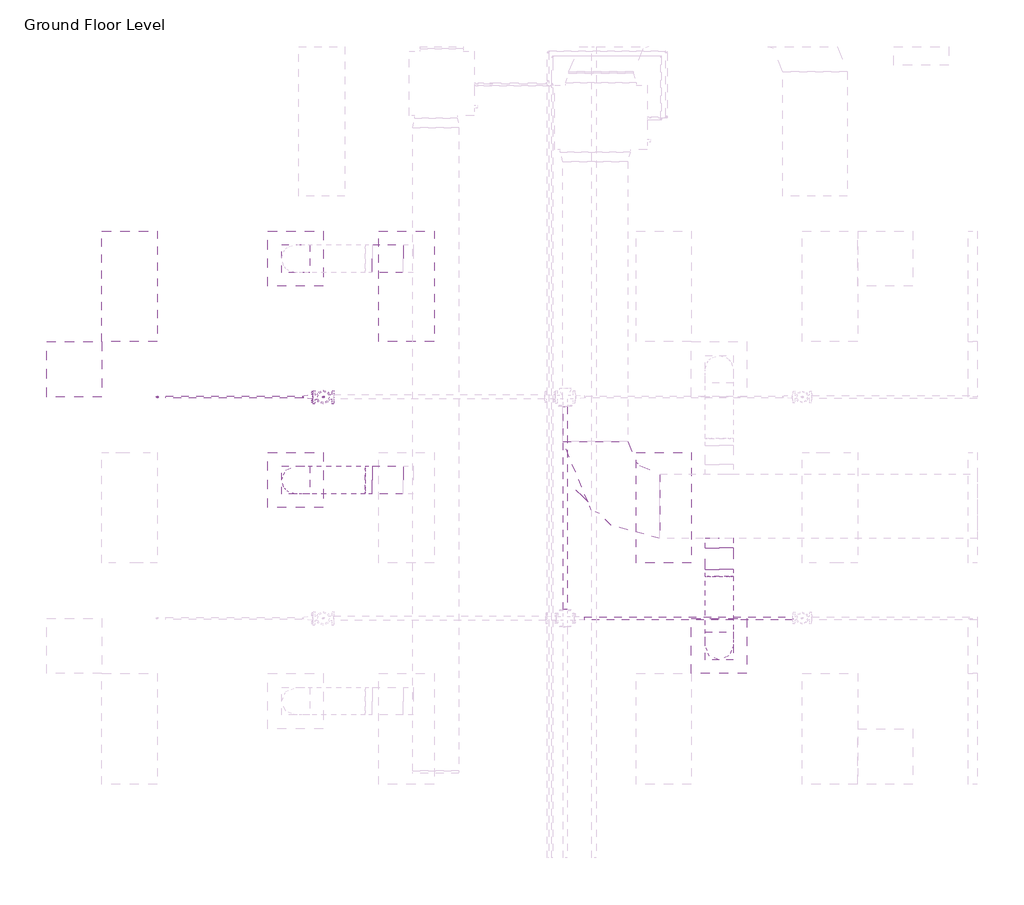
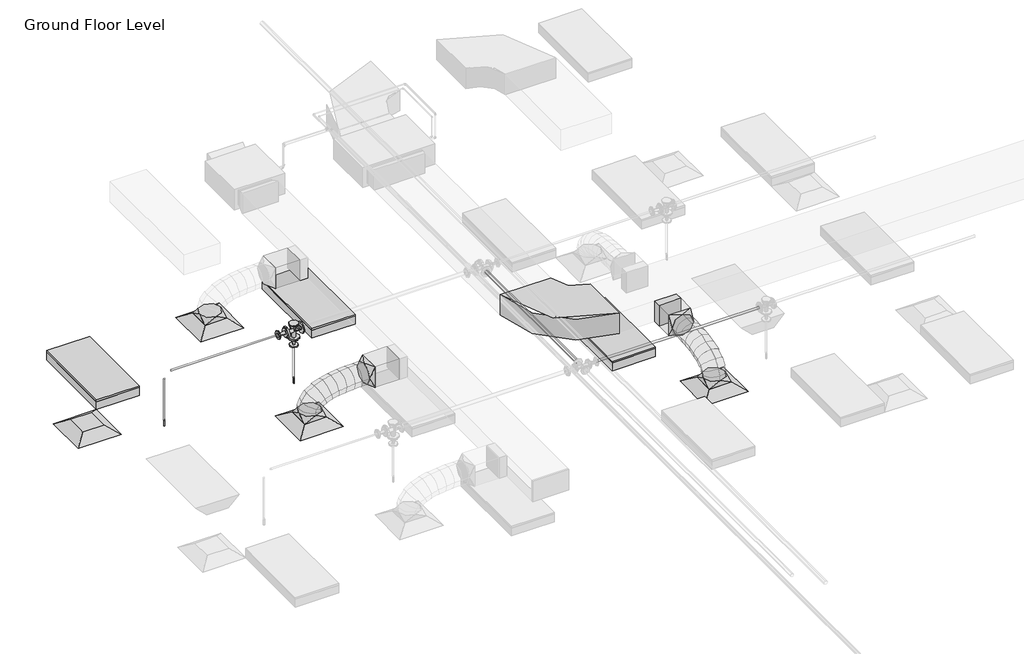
# One storey, part 29 of 66: 7 duct fittings, 5 duct segments, 5 pipe segments, 4 air terminals, 3 light fixtures, 3 pipe fittings, 2 fire suppression terminals.
"""IFC4 building model written with IfcOpenShell, lengths in millimetres."""

from ifc_helpers import new_model, si_unit, point, frame, frame_2d, origin, place, context, project, spatial, polyline, circle_curve, ellipse_curve, trimmed, segment, composite_curve, outline, extrude, transform, mapped, element, save
from ifc_brep_helpers import plane_surface, cylinder_surface, advanced_brep
from components import m_return_diffuser_600_x_600_face_300_x_300_connection_ff221211, m_rectangular_elbow_radius_1_w_8a62b27e, m_rectangular_takeoff_standard_2be5eba1, m_rectangular_to_round_transition_angle_45_degree_641efff0, m_sprinkler_dry_pendent_hosted_15_mm_dry_pendent_9bda8e11, m_troffer_light_parabolic_rectangular1_0600x1200mm_4_lamp_86473d4a, m_reducer_flanged_cs_class_150_standard_83138b42, m_reducer_flanged_cs_class_150_standard_dc68ad9d, m_tee_round_base_flanged_cs_class_150_standard_ab36f383

model = new_model("IFC4")

# Units and contexts
model_context = context("Model", 3, world=origin())
ifc_project = project(units=[si_unit("LENGTHUNIT", "METRE", prefix="MILLI")], contexts=[model_context])

# Site, building, storey
site = spatial("IfcSite", under=ifc_project)
building = spatial("IfcBuilding", under=site)
storey = spatial("IfcBuildingStorey", under=building, Name="Ground Floor Level", Elevation=900.0)

# Air terminals
placement = place(None, origin())
m_return_diffuser_600_x_600_face_300_x_300_connection_shape = m_return_diffuser_600_x_600_face_300_x_300_connection_ff221211(model_context)
element("IfcAirTerminal", 1, ObjectType="M_Return Diffuser : 600 x 600 Face 300 x 300 Connection", at=placement, inside=storey, context=model_context, shape_type="MappedRepresentation", body=[
    mapped(m_return_diffuser_600_x_600_face_300_x_300_connection_shape, transform((362.7672395, -10664.7846466, 3650.0), x_axis=(1.0, 0.0, 0.0), y_axis=(0.0, 1.0, 0.0), z_axis=(0.0, 0.0, 1.0))),
])
element("IfcAirTerminal", 2, ObjectType="M_Supply Diffuser : 600 x 600 Face 300 x 300 Connection", at=placement, inside=storey, context=model_context, shape_type="MappedRepresentation", body=[
    mapped(m_return_diffuser_600_x_600_face_300_x_300_connection_shape, transform((2762.7672395, -9464.7846466, 3650.0), x_axis=(1.0, 0.0, 0.0), y_axis=(0.0, 1.0, 0.0), z_axis=(0.0, 0.0, 1.0))),
])
element("IfcAirTerminal", 3, ObjectType="M_Supply Diffuser : 600 x 600 Face 300 x 300 Connection", at=placement, inside=storey, context=model_context, shape_type="MappedRepresentation", body=[
    mapped(m_return_diffuser_600_x_600_face_300_x_300_connection_shape, transform((2762.7672395, -11864.7846466, 3650.0), x_axis=(1.0, 0.0, 0.0), y_axis=(0.0, 1.0, 0.0), z_axis=(0.0, 0.0, 1.0))),
])
element("IfcAirTerminal", 4, ObjectType="M_Supply Diffuser : 600 x 600 Face 300 x 300 Connection", at=placement, inside=storey, context=model_context, shape_type="MappedRepresentation", body=[
    mapped(m_return_diffuser_600_x_600_face_300_x_300_connection_shape, transform((7352.7672395, -13664.7846466, 3650.0), x_axis=(1.0, 0.0, 0.0), y_axis=(0.0, 1.0, 0.0), z_axis=(0.0, 0.0, 1.0))),
])

# Duct fittings
m_rectangular_elbow_radius_1_w_shape = m_rectangular_elbow_radius_1_w_8a62b27e(model_context)
element("IfcDuctFitting", 5, ObjectType="M_Rectangular Elbow - Radius : 1 W", at=placement, inside=storey, context=model_context, shape_type="MappedRepresentation", body=[
    mapped(m_rectangular_elbow_radius_1_w_shape, transform((6009.9139492, -12149.3358641, 4099.9875), x_axis=(0.0, -0.9999999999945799, -3.2924882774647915e-06), y_axis=(1.0000000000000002, 0.0, 0.0), z_axis=(0.0, -3.2924882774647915e-06, 0.9999999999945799))),
])
m_rectangular_takeoff_standard_shape = m_rectangular_takeoff_standard_2be5eba1(model_context)
element("IfcDuctFitting", 6, ObjectType="M_Rectangular Takeoff : Standard", at=placement, inside=storey, context=model_context, shape_type="MappedRepresentation", body=[
    mapped(m_rectangular_takeoff_standard_shape, transform((7352.7672395, -12499.3358641, 4099.9875), x_axis=(0.0, -1.0, 0.0), y_axis=(-1.0, 0.0, 0.0), z_axis=(0.0, 0.0, -1.0))),
])
m_rectangular_to_round_transition_angle_45_degree_shape = m_rectangular_to_round_transition_angle_45_degree_641efff0(model_context)
element("IfcDuctFitting", 7, ObjectType="M_Rectangular to Round Transition - Angle : 45 Degree", at=placement, inside=storey, context=model_context, shape_type="MappedRepresentation", body=[
    mapped(m_rectangular_to_round_transition_angle_45_degree_shape, transform((2762.7672395, -9464.7846466, 3751.6), x_axis=(0.0, 0.0, 1.0), y_axis=(-1.0, 0.0, 0.0), z_axis=(0.0, -1.0, 0.0))),
])
element("IfcDuctFitting", 8, ObjectType="M_Rectangular to Round Transition - Angle : 45 Degree", at=placement, inside=storey, context=model_context, shape_type="MappedRepresentation", body=[
    mapped(m_rectangular_to_round_transition_angle_45_degree_shape, transform((2762.7672395, -11864.7846466, 3751.6), x_axis=(0.0, 0.0, 1.0), y_axis=(-1.0, 0.0, 0.0), z_axis=(0.0, -1.0, 0.0))),
])
element("IfcDuctFitting", 9, ObjectType="M_Rectangular to Round Transition - Angle : 45 Degree", at=placement, inside=storey, context=model_context, shape_type="MappedRepresentation", body=[
    mapped(m_rectangular_to_round_transition_angle_45_degree_shape, transform((3590.1100595, -11864.7846466, 4099.9931113), x_axis=(-1.0, 0.0, 0.0), y_axis=(0.0, -1.0, 0.0), z_axis=(0.0, 0.0, 1.0))),
])
element("IfcDuctFitting", 10, ObjectType="M_Rectangular to Round Transition - Angle : 45 Degree", at=placement, inside=storey, context=model_context, shape_type="MappedRepresentation", body=[
    mapped(m_rectangular_to_round_transition_angle_45_degree_shape, transform((7352.7672395, -13664.7846466, 3751.6), x_axis=(0.0, 0.0, 1.0), y_axis=(-1.0, 0.0, 0.0), z_axis=(0.0, -1.0, 0.0))),
])
element("IfcDuctFitting", 11, ObjectType="M_Rectangular to Round Transition - Angle : 45 Degree", at=placement, inside=storey, context=model_context, shape_type="MappedRepresentation", body=[
    mapped(m_rectangular_to_round_transition_angle_45_degree_shape, transform((7352.7672395, -12837.4362153, 4099.9875), x_axis=(0.0, -1.0, 0.0), y_axis=(1.0, 0.0, 0.0), z_axis=(0.0, 0.0, 1.0))),
])

# Duct segments
element("IfcDuctSegment", 12, ObjectType="Flex - Round", at=placement, inside=storey, context=model_context, shape_type="AdvancedBrep", body=[
    advanced_brep(
    [(2912.7672395, -11864.7846466, 3826.6), (2762.7672395, -12014.7846466, 3826.6), (2612.7672395, -11864.7846466, 3826.6), (2762.7672395, -11714.7846466, 3826.6), (2912.7672395, -11864.7846466, 3832.2944249), (2762.7672395, -12014.7846466, 3857.9380006), (2612.7672395, -11864.7846466, 3883.5815763), (2762.7672395, -11714.7846466, 3857.9380006), (2913.5209081, -11864.7846466, 3834.434264), (2779.783363, -12014.7846466, 3906.2506984), (2646.045818, -11864.7846466, 3978.0671329), (2779.783363, -11714.7846466, 3906.2506984), (2931.1724836, -11864.7846466, 3857.8005181), (2826.9677634, -12014.7846466, 3968.7109978), (2722.7630433, -11864.7846466, 4079.6214776), (2826.9677634, -11714.7846466, 3968.7109978), (2967.4566828, -11864.7846466, 3881.8142389), (2898.5244852, -12014.7846466, 4016.0688885), (2829.5922876, -11864.7846466, 4150.3235382), (2898.5244852, -11714.7846466, 4016.0688885), (3032.2163051, -11864.7846466, 3906.4896423), (2988.6575729, -12014.7846466, 4050.4123609), (2945.0988407, -11864.7846466, 4194.3350795), (2988.6575729, -11714.7846466, 4050.4123609), (3118.1300698, -11864.7846466, 3926.0385497), (3091.5710711, -12014.7846466, 4073.8294054), (3065.0120723, -11864.7846466, 4221.620261), (3091.5710711, -11714.7846466, 4073.8294054), (3216.6182532, -11864.7846466, 3939.1035838), (3201.4690243, -12014.7846466, 4088.4080122), (3186.3197953, -11864.7846466, 4237.7124407), (3201.4690243, -11714.7846466, 4088.4080122), (3320.0595033, -11864.7846466, 3946.3929932), (3312.555477, -12014.7846466, 4096.2361719), (3305.0514507, -11864.7846466, 4246.0793507), (3312.555477, -11714.7846466, 4096.2361719), (3421.725202, -11864.7846466, 3949.415593), (3419.0344739, -12014.7846466, 4099.4018748), (3416.3437458, -11864.7846466, 4249.3881567), (3419.0344739, -11714.7846466, 4099.4018748), (3516.0331222, -11864.7846466, 3949.9959514), (3515.1100595, -12014.7846466, 4099.9931113), (3514.1869969, -11864.7846466, 4249.9902711), (3515.1100595, -11714.7846466, 4099.9931113)],
    [
        (0, 1, circle_curve(frame((2762.7672395, -11864.7846466, 3826.6), z_axis=(0.0, 0.0, -1.0), x_axis=(1.0, 0.0, 0.0)), 150.0)),
        (1, 2, circle_curve(frame((2762.7672395, -11864.7846466, 3826.6), z_axis=(0.0, 0.0, -1.0), x_axis=(1.0, 0.0, 0.0)), 150.0)),
        (2, 3, circle_curve(frame((2762.7672395, -11864.7846466, 3826.6), z_axis=(0.0, 0.0, -1.0), x_axis=(1.0, 0.0, 0.0)), 150.0)),
        (3, 0, circle_curve(frame((2762.7672395, -11864.7846466, 3826.6), z_axis=(0.0, 0.0, -1.0), x_axis=(1.0, 0.0, 0.0)), 150.0)),
        (0, 4),
        (4, 5, ellipse_curve(frame((2762.7672395, -11864.7846466, 3857.9380006), z_axis=(-0.1685124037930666, 0.0, -0.985699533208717), x_axis=(0.985699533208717, 0.0, -0.16851240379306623)), 152.1761906, 150.0)),
        (5, 1),
        (5, 6, ellipse_curve(frame((2762.7672395, -11864.7846466, 3857.9380006), z_axis=(-0.1685124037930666, 0.0, -0.985699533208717), x_axis=(0.985699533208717, 0.0, -0.16851240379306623)), 152.1761906, 150.0)),
        (6, 2),
        (6, 7, ellipse_curve(frame((2762.7672395, -11864.7846466, 3857.9380006), z_axis=(-0.1685124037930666, 0.0, -0.985699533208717), x_axis=(0.985699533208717, 0.0, -0.16851240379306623)), 152.1761906, 150.0)),
        (7, 3),
        (7, 4, ellipse_curve(frame((2762.7672395, -11864.7846466, 3857.9380006), z_axis=(-0.1685124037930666, 0.0, -0.985699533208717), x_axis=(0.985699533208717, 0.0, -0.16851240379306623)), 152.1761906, 150.0)),
        (4, 8),
        (8, 9, ellipse_curve(frame((2779.783363, -11864.7846466, 3906.2506984), z_axis=(-0.47309810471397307, 0.0, -0.8810097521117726), x_axis=(0.8810097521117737, 0.0, -0.47309810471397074)), 151.8003005, 150.0)),
        (9, 5),
        (9, 10, ellipse_curve(frame((2779.783363, -11864.7846466, 3906.2506984), z_axis=(-0.47309810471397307, 0.0, -0.8810097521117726), x_axis=(0.8810097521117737, 0.0, -0.47309810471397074)), 151.8003005, 150.0)),
        (10, 6),
        (10, 11, ellipse_curve(frame((2779.783363, -11864.7846466, 3906.2506984), z_axis=(-0.47309810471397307, 0.0, -0.8810097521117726), x_axis=(0.8810097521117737, 0.0, -0.47309810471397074)), 151.8003005, 150.0)),
        (11, 7),
        (11, 8, ellipse_curve(frame((2779.783363, -11864.7846466, 3906.2506984), z_axis=(-0.47309810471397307, 0.0, -0.8810097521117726), x_axis=(0.8810097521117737, 0.0, -0.47309810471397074)), 151.8003005, 150.0)),
        (8, 12),
        (12, 13, ellipse_curve(frame((2826.9677634, -11864.7846466, 3968.7109978), z_axis=(-0.7287953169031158, 0.0, -0.684731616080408), x_axis=(0.6847316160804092, 0.0, -0.7287953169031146)), 152.1833047, 150.0)),
        (13, 9),
        (13, 14, ellipse_curve(frame((2826.9677634, -11864.7846466, 3968.7109978), z_axis=(-0.7287953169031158, 0.0, -0.684731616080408), x_axis=(0.6847316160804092, 0.0, -0.7287953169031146)), 152.1833047, 150.0)),
        (14, 10),
        (14, 15, ellipse_curve(frame((2826.9677634, -11864.7846466, 3968.7109978), z_axis=(-0.7287953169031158, 0.0, -0.684731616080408), x_axis=(0.6847316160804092, 0.0, -0.7287953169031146)), 152.1833047, 150.0)),
        (15, 11),
        (15, 12, ellipse_curve(frame((2826.9677634, -11864.7846466, 3968.7109978), z_axis=(-0.7287953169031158, 0.0, -0.684731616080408), x_axis=(0.6847316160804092, 0.0, -0.7287953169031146)), 152.1833047, 150.0)),
        (12, 16),
        (16, 17, ellipse_curve(frame((2898.5244852, -11864.7846466, 4016.0688885), z_axis=(-0.8895922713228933, 0.0, -0.45675550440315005), x_axis=(0.4567555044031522, 0.0, -0.8895922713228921)), 150.9170594, 150.0)),
        (17, 13),
        (17, 18, ellipse_curve(frame((2898.5244852, -11864.7846466, 4016.0688885), z_axis=(-0.8895922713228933, 0.0, -0.45675550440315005), x_axis=(0.4567555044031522, 0.0, -0.8895922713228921)), 150.9170594, 150.0)),
        (18, 14),
        (18, 19, ellipse_curve(frame((2898.5244852, -11864.7846466, 4016.0688885), z_axis=(-0.8895922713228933, 0.0, -0.45675550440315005), x_axis=(0.4567555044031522, 0.0, -0.8895922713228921)), 150.9170594, 150.0)),
        (19, 15),
        (19, 16, ellipse_curve(frame((2898.5244852, -11864.7846466, 4016.0688885), z_axis=(-0.8895922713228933, 0.0, -0.45675550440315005), x_axis=(0.4567555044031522, 0.0, -0.8895922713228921)), 150.9170594, 150.0)),
        (16, 20),
        (20, 21, ellipse_curve(frame((2988.6575729, -11864.7846466, 4050.4123609), z_axis=(-0.957124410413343, 0.0, -0.289677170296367), x_axis=(0.28967717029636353, 0.0, -0.9571244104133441)), 150.3699175, 150.0)),
        (21, 17),
        (21, 22, ellipse_curve(frame((2988.6575729, -11864.7846466, 4050.4123609), z_axis=(-0.957124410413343, 0.0, -0.289677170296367), x_axis=(0.28967717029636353, 0.0, -0.9571244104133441)), 150.3699175, 150.0)),
        (22, 18),
        (22, 23, ellipse_curve(frame((2988.6575729, -11864.7846466, 4050.4123609), z_axis=(-0.957124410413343, 0.0, -0.289677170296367), x_axis=(0.28967717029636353, 0.0, -0.9571244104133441)), 150.3699175, 150.0)),
        (23, 19),
        (23, 20, ellipse_curve(frame((2988.6575729, -11864.7846466, 4050.4123609), z_axis=(-0.957124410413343, 0.0, -0.289677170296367), x_axis=(0.28967717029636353, 0.0, -0.9571244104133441)), 150.3699175, 150.0)),
        (20, 24),
        (24, 25, ellipse_curve(frame((3091.5710711, -11864.7846466, 4073.8294054), z_axis=(-0.9842336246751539, 0.0, -0.1768733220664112), x_axis=(0.17687332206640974, 0.0, -0.9842336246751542)), 150.1583079, 150.0)),
        (25, 21),
        (25, 26, ellipse_curve(frame((3091.5710711, -11864.7846466, 4073.8294054), z_axis=(-0.9842336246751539, 0.0, -0.1768733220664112), x_axis=(0.17687332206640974, 0.0, -0.9842336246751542)), 150.1583079, 150.0)),
        (26, 22),
        (26, 27, ellipse_curve(frame((3091.5710711, -11864.7846466, 4073.8294054), z_axis=(-0.9842336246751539, 0.0, -0.1768733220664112), x_axis=(0.17687332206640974, 0.0, -0.9842336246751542)), 150.1583079, 150.0)),
        (27, 23),
        (27, 24, ellipse_curve(frame((3091.5710711, -11864.7846466, 4073.8294054), z_axis=(-0.9842336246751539, 0.0, -0.1768733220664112), x_axis=(0.17687332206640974, 0.0, -0.9842336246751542)), 150.1583079, 150.0)),
        (24, 28),
        (28, 29, ellipse_curve(frame((3201.4690243, -11864.7846466, 4088.4080122), z_axis=(-0.9948917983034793, 0.0, -0.10094706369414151), x_axis=(0.10094706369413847, 0.0, -0.9948917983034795)), 150.0710214, 150.0)),
        (29, 25),
        (29, 30, ellipse_curve(frame((3201.4690243, -11864.7846466, 4088.4080122), z_axis=(-0.9948917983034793, 0.0, -0.10094706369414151), x_axis=(0.10094706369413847, 0.0, -0.9948917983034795)), 150.0710214, 150.0)),
        (30, 26),
        (30, 31, ellipse_curve(frame((3201.4690243, -11864.7846466, 4088.4080122), z_axis=(-0.9948917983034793, 0.0, -0.10094706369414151), x_axis=(0.10094706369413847, 0.0, -0.9948917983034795)), 150.0710214, 150.0)),
        (31, 27),
        (31, 28, ellipse_curve(frame((3201.4690243, -11864.7846466, 4088.4080122), z_axis=(-0.9948917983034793, 0.0, -0.10094706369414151), x_axis=(0.10094706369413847, 0.0, -0.9948917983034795)), 150.0710214, 150.0)),
        (28, 32),
        (32, 33, ellipse_curve(frame((3312.555477, -11864.7846466, 4096.2361719), z_axis=(-0.99874839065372, 0.0, -0.050016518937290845), x_axis=(0.050016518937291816, 0.0, -0.99874839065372)), 150.0309589, 150.0)),
        (33, 29),
        (33, 34, ellipse_curve(frame((3312.555477, -11864.7846466, 4096.2361719), z_axis=(-0.99874839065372, 0.0, -0.050016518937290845), x_axis=(0.050016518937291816, 0.0, -0.99874839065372)), 150.0309589, 150.0)),
        (34, 30),
        (34, 35, ellipse_curve(frame((3312.555477, -11864.7846466, 4096.2361719), z_axis=(-0.99874839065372, 0.0, -0.050016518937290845), x_axis=(0.050016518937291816, 0.0, -0.99874839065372)), 150.0309589, 150.0)),
        (35, 31),
        (35, 32, ellipse_curve(frame((3312.555477, -11864.7846466, 4096.2361719), z_axis=(-0.99874839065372, 0.0, -0.050016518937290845), x_axis=(0.050016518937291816, 0.0, -0.99874839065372)), 150.0309589, 150.0)),
        (32, 36),
        (36, 37, ellipse_curve(frame((3419.0344739, -11864.7846466, 4099.4018748), z_axis=(-0.999839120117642, 0.0, -0.017936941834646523), x_axis=(0.017936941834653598, 1.819106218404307e-12, -0.9998391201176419)), 150.0104155, 150.0)),
        (37, 33),
        (37, 38, ellipse_curve(frame((3419.0344739, -11864.7846466, 4099.4018748), z_axis=(-0.999839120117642, 0.0, -0.017936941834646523), x_axis=(0.017936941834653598, 1.819106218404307e-12, -0.9998391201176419)), 150.0104155, 150.0)),
        (38, 34),
        (38, 39, ellipse_curve(frame((3419.0344739, -11864.7846466, 4099.4018748), z_axis=(-0.999839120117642, 0.0, -0.017936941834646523), x_axis=(0.017936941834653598, 1.819106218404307e-12, -0.9998391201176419)), 150.0104155, 150.0)),
        (39, 35),
        (39, 36, ellipse_curve(frame((3419.0344739, -11864.7846466, 4099.4018748), z_axis=(-0.999839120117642, 0.0, -0.017936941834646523), x_axis=(0.017936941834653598, 1.819106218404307e-12, -0.9998391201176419)), 150.0104155, 150.0)),
        (36, 40),
        (40, 41, circle_curve(frame((3515.1100595, -11864.7846466, 4099.9931113), z_axis=(-0.9999810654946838, 0.0, -0.006153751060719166), x_axis=(0.006153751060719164, 0.0, -0.9999810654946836)), 150.0)),
        (41, 37),
        (41, 42, circle_curve(frame((3515.1100595, -11864.7846466, 4099.9931113), z_axis=(-0.9999810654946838, 0.0, -0.006153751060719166), x_axis=(0.006153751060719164, 0.0, -0.9999810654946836)), 150.0)),
        (42, 38),
        (42, 43, circle_curve(frame((3515.1100595, -11864.7846466, 4099.9931113), z_axis=(-0.9999810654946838, 0.0, -0.006153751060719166), x_axis=(0.006153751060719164, 0.0, -0.9999810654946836)), 150.0)),
        (43, 39),
        (43, 40, circle_curve(frame((3515.1100595, -11864.7846466, 4099.9931113), z_axis=(-0.9999810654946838, 0.0, -0.006153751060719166), x_axis=(0.006153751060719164, 0.0, -0.9999810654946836)), 150.0)),
    ],
    [
        plane_surface(frame((2762.7672395, -12014.7846466, 3826.6), z_axis=(0.0, 0.0, -1.0), x_axis=(1.0, 0.0, 0.0))),
        cylinder_surface(frame((2762.7672395, -11864.7846466, 3826.6), z_axis=(0.0, 0.0, -1.0), x_axis=(1.0, 0.0, 0.0)), 150.0),
        cylinder_surface(frame((2762.7672395, -11864.7846466, 3857.9380006), z_axis=(-0.33220519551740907, 0.0, -0.943207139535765), x_axis=(0.943207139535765, 0.0, -0.33220519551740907)), 150.0),
        cylinder_surface(frame((2779.783363, -11864.7846466, 3906.2506984), z_axis=(-0.602769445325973, 0.0, -0.7979154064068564), x_axis=(0.7979154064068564, 0.0, -0.602769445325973)), 150.0),
        cylinder_surface(frame((2826.9677634, -11864.7846466, 3968.7109978), z_axis=(-0.8339097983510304, 0.0, -0.55190075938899), x_axis=(0.55190075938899, 0.0, -0.8339097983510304)), 150.0),
        cylinder_surface(frame((2898.5244852, -11864.7846466, 4016.0688885), z_axis=(-0.9344633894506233, 0.0, -0.35605922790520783), x_axis=(0.35605922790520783, 0.0, -0.9344633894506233)), 150.0),
        cylinder_surface(frame((2988.6575729, -11864.7846466, 4050.4123609), z_axis=(-0.9750762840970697, 0.0, -0.2218698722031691), x_axis=(0.2218698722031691, 0.0, -0.9750762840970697)), 150.0),
        cylinder_surface(frame((3091.5710711, -11864.7846466, 4073.8294054), z_axis=(-0.9913156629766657, 0.0, -0.13150382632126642), x_axis=(0.13150382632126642, 0.0, -0.9913156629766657)), 150.0),
        cylinder_surface(frame((3201.4690243, -11864.7846466, 4088.4080122), z_axis=(-0.9975262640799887, 0.0, -0.07029475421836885), x_axis=(0.07029475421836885, 0.0, -0.9975262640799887)), 150.0),
        cylinder_surface(frame((3312.555477, -11864.7846466, 4096.2361719), z_axis=(-0.9995583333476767, 0.0, -0.029717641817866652), x_axis=(0.029717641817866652, 0.0, -0.9995583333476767)), 150.0),
        cylinder_surface(frame((3419.0344739, -11864.7846466, 4099.4018748), z_axis=(-0.9999810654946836, 0.0, -0.006153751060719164), x_axis=(0.006153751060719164, 0.0, -0.9999810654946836)), 150.0),
        plane_surface(frame((3515.1100595, -12014.7846466, 4099.9931113), z_axis=(0.9999810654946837, 0.0, 0.006153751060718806), x_axis=(0.006153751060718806, -3.666400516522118e-12, -0.9999810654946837))),
    ],
    [
        (0, [[1, 2, 3, 4]]),
        (1, [[-1, 5, 6, 7]]),
        (1, [[-2, -7, 8, 9]]),
        (1, [[-3, -9, 10, 11]]),
        (1, [[-4, -11, 12, -5]]),
        (2, [[-6, 13, 14, 15]]),
        (2, [[-8, -15, 16, 17]]),
        (2, [[-10, -17, 18, 19]]),
        (2, [[-12, -19, 20, -13]]),
        (3, [[-14, 21, 22, 23]]),
        (3, [[-16, -23, 24, 25]]),
        (3, [[-18, -25, 26, 27]]),
        (3, [[-20, -27, 28, -21]]),
        (4, [[-22, 29, 30, 31]]),
        (4, [[-24, -31, 32, 33]]),
        (4, [[-26, -33, 34, 35]]),
        (4, [[-28, -35, 36, -29]]),
        (5, [[-30, 37, 38, 39]]),
        (5, [[-32, -39, 40, 41]]),
        (5, [[-34, -41, 42, 43]]),
        (5, [[-36, -43, 44, -37]]),
        (6, [[-38, 45, 46, 47]]),
        (6, [[-40, -47, 48, 49]]),
        (6, [[-42, -49, 50, 51]]),
        (6, [[-44, -51, 52, -45]]),
        (7, [[-46, 53, 54, 55]]),
        (7, [[-48, -55, 56, 57]]),
        (7, [[-50, -57, 58, 59]]),
        (7, [[-52, -59, 60, -53]]),
        (8, [[-54, 61, 62, 63]]),
        (8, [[-56, -63, 64, 65]]),
        (8, [[-58, -65, 66, 67]]),
        (8, [[-60, -67, 68, -61]]),
        (9, [[-62, 69, 70, 71]]),
        (9, [[-64, -71, 72, 73]]),
        (9, [[-66, -73, 74, 75]]),
        (9, [[-68, -75, 76, -69]]),
        (10, [[-70, 77, 78, 79]]),
        (10, [[-72, -79, 80, 81]]),
        (10, [[-74, -81, 82, 83]]),
        (10, [[-76, -83, 84, -77]]),
        (11, [[-84, -82, -80, -78]]),
    ],
),
])
element("IfcDuctSegment", 13, ObjectType="Flex - Round", at=placement, inside=storey, context=model_context, shape_type="AdvancedBrep", body=[
    advanced_brep(
    [(7502.7672395, -13664.7846466, 3826.6), (7352.7672395, -13814.7846466, 3826.6), (7202.7672395, -13664.7846466, 3826.6), (7352.7672395, -13514.7846466, 3826.6), (7502.7672395, -13664.7846466, 3857.9382361), (7352.7672395, -13814.7846466, 3883.5820996), (7202.7672395, -13664.7846466, 3857.9382361), (7352.7672395, -13514.7846466, 3832.2943726), (7502.7672395, -13647.7683675, 3906.2508008), (7352.7672395, -13781.5055592, 3978.0679769), (7202.7672395, -13647.7683675, 3906.2508008), (7352.7672395, -13514.0311758, 3834.4336246), (7502.7672395, -13600.5835435, 3968.710741), (7352.7672395, -13704.7873032, 4079.6221903), (7202.7672395, -13600.5835435, 3968.710741), (7352.7672395, -13496.3797837, 3857.7992917), (7502.7672395, -13529.0261948, 4016.0679312), (7352.7672395, -13597.9568789, 4150.3233665), (7202.7672395, -13529.0261948, 4016.0679312), (7352.7672395, -13460.0955107, 3881.8124958), (7502.7672395, -13438.8923417, 4050.4104815), (7352.7672395, -13482.4494195, 4194.3336978), (7202.7672395, -13438.8923417, 4050.4104815), (7352.7672395, -13395.3352638, 3906.4872652), (7502.7672395, -13335.9780043, 4073.8265025), (7352.7672395, -13362.5354348, 4221.6176356), (7202.7672395, -13335.9780043, 4073.8265025), (7352.7672395, -13309.4205737, 3926.0353694), (7502.7672395, -13226.0792027, 4088.4041045), (7352.7672395, -13241.2270687, 4237.7086671), (7202.7672395, -13226.0792027, 4088.4041045), (7352.7672395, -13210.9313368, 3939.0995418), (7502.7672395, -13114.9919573, 4096.2313978), (7352.7672395, -13122.4949231, 4246.074626), (7202.7672395, -13114.9919573, 4096.2313978), (7352.7672395, -13107.4889914, 3946.3881695), (7502.7672395, -13008.5122881, 4099.3964928), (7352.7672395, -13011.2023931, 4249.3827828), (7202.7672395, -13008.5122881, 4099.3964928), (7352.7672395, -13005.8221831, 3949.4102029), (7502.7672395, -12912.4362153, 4099.9875), (7352.7672395, -12911.5135153, 3949.9903379), (7202.7672395, -12912.4362153, 4099.9875), (7352.7672395, -12913.3589154, 4249.9846621)],
    [
        (0, 1, circle_curve(frame((7352.7672395, -13664.7846466, 3826.6), z_axis=(0.0, 0.0, -1.0), x_axis=(1.0, 0.0, 0.0)), 150.0)),
        (1, 2, circle_curve(frame((7352.7672395, -13664.7846466, 3826.6), z_axis=(0.0, 0.0, -1.0), x_axis=(1.0, 0.0, 0.0)), 150.0)),
        (2, 3, circle_curve(frame((7352.7672395, -13664.7846466, 3826.6), z_axis=(0.0, 0.0, -1.0), x_axis=(1.0, 0.0, 0.0)), 150.0)),
        (3, 0, circle_curve(frame((7352.7672395, -13664.7846466, 3826.6), z_axis=(0.0, 0.0, -1.0), x_axis=(1.0, 0.0, 0.0)), 150.0)),
        (0, 4),
        (4, 5, ellipse_curve(frame((7352.7672395, -13664.7846466, 3857.9382361), z_axis=(0.0, -0.16851424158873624, -0.9856992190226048), x_axis=(0.0, 0.9856992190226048, -0.16851424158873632)), 152.1762391, 150.0)),
        (5, 1),
        (5, 6, ellipse_curve(frame((7352.7672395, -13664.7846466, 3857.9382361), z_axis=(0.0, -0.16851424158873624, -0.9856992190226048), x_axis=(0.0, 0.9856992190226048, -0.16851424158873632)), 152.1762391, 150.0)),
        (6, 2),
        (6, 7, ellipse_curve(frame((7352.7672395, -13664.7846466, 3857.9382361), z_axis=(0.0, -0.16851424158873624, -0.9856992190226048), x_axis=(0.0, 0.9856992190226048, -0.16851424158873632)), 152.1762391, 150.0)),
        (7, 3),
        (7, 4, ellipse_curve(frame((7352.7672395, -13664.7846466, 3857.9382361), z_axis=(0.0, -0.16851424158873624, -0.9856992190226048), x_axis=(0.0, 0.9856992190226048, -0.16851424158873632)), 152.1762391, 150.0)),
        (4, 8),
        (8, 9, ellipse_curve(frame((7352.7672395, -13647.7683675, 3906.2508008), z_axis=(0.0, -0.4731028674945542, -0.8810071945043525), x_axis=(0.0, 0.8810071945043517, -0.47310286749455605)), 151.80034, 150.0)),
        (9, 5),
        (9, 10, ellipse_curve(frame((7352.7672395, -13647.7683675, 3906.2508008), z_axis=(0.0, -0.4731028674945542, -0.8810071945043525), x_axis=(0.0, 0.8810071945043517, -0.47310286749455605)), 151.80034, 150.0)),
        (10, 6),
        (10, 11, ellipse_curve(frame((7352.7672395, -13647.7683675, 3906.2508008), z_axis=(0.0, -0.4731028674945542, -0.8810071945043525), x_axis=(0.0, 0.8810071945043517, -0.47310286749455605)), 151.80034, 150.0)),
        (11, 7),
        (11, 8, ellipse_curve(frame((7352.7672395, -13647.7683675, 3906.2508008), z_axis=(0.0, -0.4731028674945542, -0.8810071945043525), x_axis=(0.0, 0.8810071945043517, -0.47310286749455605)), 151.80034, 150.0)),
        (8, 12),
        (12, 13, ellipse_curve(frame((7352.7672395, -13600.5835435, 3968.710741), z_axis=(0.0, -0.728801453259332, -0.6847250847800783), x_axis=(0.0, 0.6847250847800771, -0.7288014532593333)), 152.1833536, 150.0)),
        (13, 9),
        (13, 14, ellipse_curve(frame((7352.7672395, -13600.5835435, 3968.710741), z_axis=(0.0, -0.728801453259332, -0.6847250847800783), x_axis=(0.0, 0.6847250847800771, -0.7288014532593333)), 152.1833536, 150.0)),
        (14, 10),
        (14, 15, ellipse_curve(frame((7352.7672395, -13600.5835435, 3968.710741), z_axis=(0.0, -0.728801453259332, -0.6847250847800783), x_axis=(0.0, 0.6847250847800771, -0.7288014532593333)), 152.1833536, 150.0)),
        (15, 11),
        (15, 12, ellipse_curve(frame((7352.7672395, -13600.5835435, 3968.710741), z_axis=(0.0, -0.728801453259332, -0.6847250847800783), x_axis=(0.0, 0.6847250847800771, -0.7288014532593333)), 152.1833536, 150.0)),
        (12, 16),
        (16, 17, ellipse_curve(frame((7352.7672395, -13529.0261948, 4016.0679312), z_axis=(0.0, -0.889597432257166, -0.45674545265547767), x_axis=(0.0, 0.4567454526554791, -0.8895974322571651)), 150.9170671, 150.0)),
        (17, 13),
        (17, 18, ellipse_curve(frame((7352.7672395, -13529.0261948, 4016.0679312), z_axis=(0.0, -0.889597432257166, -0.45674545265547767), x_axis=(0.0, 0.4567454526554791, -0.8895974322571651)), 150.9170671, 150.0)),
        (18, 14),
        (18, 19, ellipse_curve(frame((7352.7672395, -13529.0261948, 4016.0679312), z_axis=(0.0, -0.889597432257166, -0.45674545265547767), x_axis=(0.0, 0.4567454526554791, -0.8895974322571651)), 150.9170671, 150.0)),
        (19, 15),
        (19, 16, ellipse_curve(frame((7352.7672395, -13529.0261948, 4016.0679312), z_axis=(0.0, -0.889597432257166, -0.45674545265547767), x_axis=(0.0, 0.4567454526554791, -0.8895974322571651)), 150.9170671, 150.0)),
        (16, 20),
        (20, 21, ellipse_curve(frame((7352.7672395, -13438.8923417, 4050.4104815), z_axis=(0.0, -0.9571277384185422, -0.28966617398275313), x_axis=(0.0, 0.28966617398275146, -0.9571277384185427)), 150.3699146, 150.0)),
        (21, 17),
        (21, 22, ellipse_curve(frame((7352.7672395, -13438.8923417, 4050.4104815), z_axis=(0.0, -0.9571277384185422, -0.28966617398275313), x_axis=(0.0, 0.28966617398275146, -0.9571277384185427)), 150.3699146, 150.0)),
        (22, 18),
        (22, 23, ellipse_curve(frame((7352.7672395, -13438.8923417, 4050.4104815), z_axis=(0.0, -0.9571277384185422, -0.28966617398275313), x_axis=(0.0, 0.28966617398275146, -0.9571277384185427)), 150.3699146, 150.0)),
        (23, 19),
        (23, 20, ellipse_curve(frame((7352.7672395, -13438.8923417, 4050.4104815), z_axis=(0.0, -0.9571277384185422, -0.28966617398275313), x_axis=(0.0, 0.28966617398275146, -0.9571277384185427)), 150.3699146, 150.0)),
        (20, 24),
        (24, 25, ellipse_curve(frame((7352.7672395, -13335.9780043, 4073.8265025), z_axis=(0.0, -0.9842355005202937, -0.17686288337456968), x_axis=(0.0, 0.17686288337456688, -0.9842355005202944)), 150.1583036, 150.0)),
        (25, 21),
        (25, 26, ellipse_curve(frame((7352.7672395, -13335.9780043, 4073.8265025), z_axis=(0.0, -0.9842355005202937, -0.17686288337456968), x_axis=(0.0, 0.17686288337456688, -0.9842355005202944)), 150.1583036, 150.0)),
        (26, 22),
        (26, 27, ellipse_curve(frame((7352.7672395, -13335.9780043, 4073.8265025), z_axis=(0.0, -0.9842355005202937, -0.17686288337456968), x_axis=(0.0, 0.17686288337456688, -0.9842355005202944)), 150.1583036, 150.0)),
        (27, 23),
        (27, 24, ellipse_curve(frame((7352.7672395, -13335.9780043, 4073.8265025), z_axis=(0.0, -0.9842355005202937, -0.17686288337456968), x_axis=(0.0, 0.17686288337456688, -0.9842355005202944)), 150.1583036, 150.0)),
        (24, 28),
        (28, 29, ellipse_curve(frame((7352.7672395, -13226.0792027, 4088.4041045), z_axis=(0.0, -0.9948927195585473, -0.10093798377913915), x_axis=(0.0, 0.10093798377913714, -0.9948927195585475)), 150.0710174, 150.0)),
        (29, 25),
        (29, 30, ellipse_curve(frame((7352.7672395, -13226.0792027, 4088.4041045), z_axis=(0.0, -0.9948927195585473, -0.10093798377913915), x_axis=(0.0, 0.10093798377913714, -0.9948927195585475)), 150.0710174, 150.0)),
        (30, 26),
        (30, 31, ellipse_curve(frame((7352.7672395, -13226.0792027, 4088.4041045), z_axis=(0.0, -0.9948927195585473, -0.10093798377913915), x_axis=(0.0, 0.10093798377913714, -0.9948927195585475)), 150.0710174, 150.0)),
        (31, 27),
        (31, 28, ellipse_curve(frame((7352.7672395, -13226.0792027, 4088.4041045), z_axis=(0.0, -0.9948927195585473, -0.10093798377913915), x_axis=(0.0, 0.10093798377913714, -0.9948927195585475)), 150.0710174, 150.0)),
        (28, 32),
        (32, 33, ellipse_curve(frame((7352.7672395, -13114.9919573, 4096.2313978), z_axis=(0.0, -0.9987487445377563, -0.050009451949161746), x_axis=(0.0, 0.05000945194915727, -0.9987487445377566)), 150.0309553, 150.0)),
        (33, 29),
        (33, 34, ellipse_curve(frame((7352.7672395, -13114.9919573, 4096.2313978), z_axis=(0.0, -0.9987487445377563, -0.050009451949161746), x_axis=(0.0, 0.05000945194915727, -0.9987487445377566)), 150.0309553, 150.0)),
        (34, 30),
        (34, 35, ellipse_curve(frame((7352.7672395, -13114.9919573, 4096.2313978), z_axis=(0.0, -0.9987487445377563, -0.050009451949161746), x_axis=(0.0, 0.05000945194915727, -0.9987487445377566)), 150.0309553, 150.0)),
        (35, 31),
        (35, 32, ellipse_curve(frame((7352.7672395, -13114.9919573, 4096.2313978), z_axis=(0.0, -0.9987487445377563, -0.050009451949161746), x_axis=(0.0, 0.05000945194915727, -0.9987487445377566)), 150.0309553, 150.0)),
        (32, 36),
        (36, 37, ellipse_curve(frame((7352.7672395, -13008.5122881, 4099.3964928), z_axis=(0.0, -0.9998391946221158, -0.017932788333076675), x_axis=(0.0, 0.01793278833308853, -0.9998391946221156)), 150.0104124, 150.0)),
        (37, 33),
        (37, 38, ellipse_curve(frame((7352.7672395, -13008.5122881, 4099.3964928), z_axis=(0.0, -0.9998391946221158, -0.017932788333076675), x_axis=(0.0, 0.01793278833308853, -0.9998391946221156)), 150.0104124, 150.0)),
        (38, 34),
        (38, 39, ellipse_curve(frame((7352.7672395, -13008.5122881, 4099.3964928), z_axis=(0.0, -0.9998391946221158, -0.017932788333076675), x_axis=(0.0, 0.01793278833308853, -0.9998391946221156)), 150.0104124, 150.0)),
        (39, 35),
        (39, 36, ellipse_curve(frame((7352.7672395, -13008.5122881, 4099.3964928), z_axis=(0.0, -0.9998391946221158, -0.017932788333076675), x_axis=(0.0, 0.01793278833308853, -0.9998391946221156)), 150.0104124, 150.0)),
        (40, 41, circle_curve(frame((7352.7672395, -12912.4362153, 4099.9875), z_axis=(0.0, 0.9999810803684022, 0.0061513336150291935), x_axis=(1.0, 0.0, 0.0)), 150.0)),
        (41, 42, circle_curve(frame((7352.7672395, -12912.4362153, 4099.9875), z_axis=(0.0, 0.9999810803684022, 0.0061513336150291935), x_axis=(1.0, 0.0, 0.0)), 150.0)),
        (42, 43, circle_curve(frame((7352.7672395, -12912.4362153, 4099.9875), z_axis=(0.0, 0.9999810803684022, 0.0061513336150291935), x_axis=(1.0, 0.0, 0.0)), 150.0)),
        (43, 40, circle_curve(frame((7352.7672395, -12912.4362153, 4099.9875), z_axis=(0.0, 0.9999810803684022, 0.0061513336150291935), x_axis=(1.0, 0.0, 0.0)), 150.0)),
        (36, 40),
        (43, 37),
        (42, 38),
        (41, 39),
    ],
    [
        plane_surface(frame((7352.7672395, -13814.7846466, 3826.6), z_axis=(0.0, 0.0, -1.0), x_axis=(1.0, 0.0, 0.0))),
        cylinder_surface(frame((7352.7672395, -13664.7846466, 3826.6), z_axis=(0.0, 0.0, -1.0), x_axis=(1.0, 0.0, 0.0)), 150.0),
        cylinder_surface(frame((7352.7672395, -13664.7846466, 3857.9382361), z_axis=(0.0, -0.3322087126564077, -0.943205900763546), x_axis=(1.0, 0.0, 0.0)), 150.0),
        cylinder_surface(frame((7352.7672395, -13647.7683675, 3906.2508008), z_axis=(0.0, -0.6027750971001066, -0.797911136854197), x_axis=(1.0, 0.0, 0.0)), 150.0),
        cylinder_surface(frame((7352.7672395, -13600.5835435, 3968.710741), z_axis=(0.0, -0.8339157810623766, -0.5518917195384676), x_axis=(1.0, 0.0, 0.0)), 150.0),
        cylinder_surface(frame((7352.7672395, -13529.0261948, 4016.0679312), z_axis=(0.0, -0.9344675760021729, -0.3560482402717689), x_axis=(1.0, 0.0, 0.0)), 150.0),
        cylinder_surface(frame((7352.7672395, -13438.8923417, 4050.4104815), z_axis=(0.0, -0.9750787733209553, -0.2218589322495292), x_axis=(1.0, 0.0, 0.0)), 150.0),
        cylinder_surface(frame((7352.7672395, -13335.9780043, 4073.8265025), z_axis=(0.0, -0.9913169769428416, -0.13149392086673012), x_axis=(1.0, 0.0, 0.0)), 150.0),
        cylinder_surface(frame((7352.7672395, -13226.0792027, 4088.4041045), z_axis=(0.0, -0.9975268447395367, -0.07028651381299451), x_axis=(1.0, 0.0, 0.0)), 150.0),
        cylinder_surface(frame((7352.7672395, -13114.9919573, 4096.2313978), z_axis=(0.0, -0.999558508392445, -0.02971175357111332), x_axis=(1.0, 0.0, 0.0)), 150.0),
        plane_surface(frame((7352.7672395, -12913.3589154, 4249.9846621), z_axis=(0.0, 0.9999810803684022, 0.006151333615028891), x_axis=(1.0, 0.0, 0.0))),
        cylinder_surface(frame((7352.7672395, -13008.5122881, 4099.3964928), z_axis=(0.0, -0.9999810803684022, -0.0061513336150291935), x_axis=(1.0, 0.0, 0.0)), 150.0),
    ],
    [
        (0, [[1, 2, 3, 4]]),
        (1, [[-1, 5, 6, 7]]),
        (1, [[-2, -7, 8, 9]]),
        (1, [[-3, -9, 10, 11]]),
        (1, [[-4, -11, 12, -5]]),
        (2, [[-6, 13, 14, 15]]),
        (2, [[-8, -15, 16, 17]]),
        (2, [[-10, -17, 18, 19]]),
        (2, [[-12, -19, 20, -13]]),
        (3, [[-14, 21, 22, 23]]),
        (3, [[-16, -23, 24, 25]]),
        (3, [[-18, -25, 26, 27]]),
        (3, [[-20, -27, 28, -21]]),
        (4, [[-22, 29, 30, 31]]),
        (4, [[-24, -31, 32, 33]]),
        (4, [[-26, -33, 34, 35]]),
        (4, [[-28, -35, 36, -29]]),
        (5, [[-30, 37, 38, 39]]),
        (5, [[-32, -39, 40, 41]]),
        (5, [[-34, -41, 42, 43]]),
        (5, [[-36, -43, 44, -37]]),
        (6, [[-38, 45, 46, 47]]),
        (6, [[-40, -47, 48, 49]]),
        (6, [[-42, -49, 50, 51]]),
        (6, [[-44, -51, 52, -45]]),
        (7, [[-46, 53, 54, 55]]),
        (7, [[-48, -55, 56, 57]]),
        (7, [[-50, -57, 58, 59]]),
        (7, [[-52, -59, 60, -53]]),
        (8, [[-54, 61, 62, 63]]),
        (8, [[-56, -63, 64, 65]]),
        (8, [[-58, -65, 66, 67]]),
        (8, [[-60, -67, 68, -61]]),
        (9, [[-62, 69, 70, 71]]),
        (9, [[-64, -71, 72, 73]]),
        (9, [[-66, -73, 74, 75]]),
        (9, [[-68, -75, 76, -69]]),
        (10, [[77, 78, 79, 80]]),
        (11, [[-70, 81, -80, 82]]),
        (11, [[-72, -82, -79, 83]]),
        (11, [[-74, -83, -78, 84]]),
        (11, [[-76, -84, -77, -81]]),
    ],
),
])
element("IfcDuctSegment", 14, ObjectType="Radius Elbows / Taps", at=placement, inside=storey, context=model_context, shape_type="SweptSolid", body=[
    extrude(outline(polyline([(7202.7672395, -12600.9358641), (7502.7672395, -12600.9358641), (7502.7672395, -12837.4362153), (7202.7672395, -12837.4362153), (7202.7672395, -12600.9358641)])), frame((0.0, 0.0, 3949.9875), z_axis=(0.0, 0.0, 1.0), x_axis=(1.0, 0.0, 0.0)), (0.0, 0.0, 1.0), 300.0),
])
element("IfcDuctSegment", 15, ObjectType="Radius Elbows / Taps", at=placement, inside=storey, context=model_context, shape_type="SweptSolid", body=[
    extrude(outline(polyline([(3930.5581888, -9314.7846466), (3930.5581888, -9614.7846466), (3590.1057325, -9614.7846466), (3590.1057325, -9314.7846466), (3930.5581888, -9314.7846466)])), frame((0.0, 0.0, 3949.9974383), z_axis=(0.0, 0.0, 1.0), x_axis=(1.0, 0.0, 0.0)), (0.0, 0.0, 1.0), 300.0),
])
element("IfcDuctSegment", 16, ObjectType="Radius Elbows / Taps", at=placement, inside=storey, context=model_context, shape_type="SweptSolid", body=[
    extrude(outline(polyline([(3930.5581888, -11714.7846466), (3930.5581888, -12014.7846466), (3590.1100595, -12014.7846466), (3590.1100595, -11714.7846466), (3930.5581888, -11714.7846466)])), frame((0.0, 0.0, 3949.9931113), z_axis=(0.0, 0.0, 1.0), x_axis=(1.0, 0.0, 0.0)), (0.0, 0.0, 1.0), 300.0),
])

# Fire suppression terminals
m_sprinkler_dry_pendent_hosted_15_mm_dry_pendent_shape = m_sprinkler_dry_pendent_hosted_15_mm_dry_pendent_9bda8e11(model_context)
element("IfcFireSuppressionTerminal", 17, ObjectType="M_Sprinkler - Dry - Pendent - Hosted : 15 mm Dry Pendent", at=placement, inside=storey, context=model_context, shape_type="MappedRepresentation", body=[
    mapped(m_sprinkler_dry_pendent_hosted_15_mm_dry_pendent_shape, transform((1262.7672395, -10964.7846466, 3650.0), x_axis=(1.0, 0.0, 0.0), y_axis=(0.0, -1.0, 0.0), z_axis=(0.0, 0.0, -1.0))),
])
element("IfcFireSuppressionTerminal", 18, ObjectType="M_Sprinkler - Dry - Pendent - Hosted : 15 mm Dry Pendent", at=placement, inside=storey, context=model_context, shape_type="MappedRepresentation", body=[
    mapped(m_sprinkler_dry_pendent_hosted_15_mm_dry_pendent_shape, transform((3062.7672395, -10964.7846466, 3650.0), x_axis=(1.0, 0.0, 0.0), y_axis=(0.0, -1.0, 0.0), z_axis=(0.0, 0.0, -1.0))),
])

# Light fixtures
m_troffer_light_parabolic_rectangular1_0600x1200mm_4_lamp_shape = m_troffer_light_parabolic_rectangular1_0600x1200mm_4_lamp_86473d4a(model_context)
element("IfcLightFixture", 19, ObjectType="M_Troffer Light - Parabolic Rectangular1 : 0600x1200mm(4 Lamp) - 277V 2", at=placement, inside=storey, context=model_context, shape_type="MappedRepresentation", body=[
    mapped(m_troffer_light_parabolic_rectangular1_0600x1200mm_4_lamp_shape, transform((6693.3013074, -12146.081145, 3650.0), x_axis=(0.0, 1.0, 0.0), y_axis=(-1.0, 0.0, 0.0), z_axis=(0.0, 0.0, 1.0))),
])
element("IfcLightFixture", 20, ObjectType="M_Troffer Light - Parabolic Rectangular1 : 0600x1200mm(4 Lamp) - 277V 2", at=placement, inside=storey, context=model_context, shape_type="MappedRepresentation", body=[
    mapped(m_troffer_light_parabolic_rectangular1_0600x1200mm_4_lamp_shape, transform((903.3013074, -9746.081145, 3650.0), x_axis=(0.0, 1.0, 0.0), y_axis=(-1.0, 0.0, 0.0), z_axis=(0.0, 0.0, 1.0))),
])
element("IfcLightFixture", 21, ObjectType="M_Troffer Light - Parabolic Rectangular1 : 0600x1200mm(4 Lamp) - 277V 2", at=placement, inside=storey, context=model_context, shape_type="MappedRepresentation", body=[
    mapped(m_troffer_light_parabolic_rectangular1_0600x1200mm_4_lamp_shape, transform((3903.3013074, -9746.081145, 3650.0), x_axis=(0.0, 1.0, 0.0), y_axis=(-1.0, 0.0, 0.0), z_axis=(0.0, 0.0, 1.0))),
])

# Pipe fittings
m_reducer_flanged_cs_class_150_standard_shape = m_reducer_flanged_cs_class_150_standard_83138b42(model_context)
element("IfcPipeFitting", 22, ObjectType="M_Reducer - Flanged - CS - Class 150 : Standard", at=placement, inside=storey, context=model_context, shape_type="MappedRepresentation", body=[
    mapped(m_reducer_flanged_cs_class_150_standard_shape, transform((2950.5086457, -10964.7846466, 4347.5), x_axis=(-1.0, 0.0, 0.0), y_axis=(0.0, -1.0, 0.0), z_axis=(0.0, 0.0, 1.0))),
])
m_reducer_flanged_cs_class_150_standard_2_shape = m_reducer_flanged_cs_class_150_standard_dc68ad9d(model_context)
element("IfcPipeFitting", 23, ObjectType="M_Reducer - Flanged - CS - Class 150 : Standard", at=placement, inside=storey, context=model_context, shape_type="MappedRepresentation", body=[
    mapped(m_reducer_flanged_cs_class_150_standard_2_shape, transform((3062.7672395, -10964.7846466, 4235.2414062), x_axis=(0.0, 0.0, -1.0), y_axis=(-1.0, 0.0, 0.0), z_axis=(0.0, 1.0, 0.0))),
])
m_tee_round_base_flanged_cs_class_150_standard_shape = m_tee_round_base_flanged_cs_class_150_standard_ab36f383(model_context)
element("IfcPipeFitting", 24, ObjectType="M_Tee Round Base - Flanged - CS - Class 150 : Standard", at=placement, inside=storey, context=model_context, shape_type="MappedRepresentation", body=[
    mapped(m_tee_round_base_flanged_cs_class_150_standard_shape, transform((3062.7672395, -10964.7846466, 4347.5), x_axis=(-1.0, 0.0, 0.0), y_axis=(0.0, 0.0, 1.0), z_axis=(0.0, 1.0, 0.0))),
])

# Pipe segments
element("IfcPipeSegment", 25, ObjectType="Steel flanged", at=placement, inside=storey, context=model_context, shape_type="SweptSolid", body=[
    extrude(outline(composite_curve([segment(trimmed(circle_curve(frame_2d((4347.5, 5684.6174894)), 21.082), [point((4347.5, 5705.6994894))], [point((4368.582, 5684.6174894))], False, "CARTESIAN"), True, "CONTINUOUS"), segment(trimmed(circle_curve(frame_2d((4347.5, 5684.6174894)), 21.082), [point((4368.582, 5684.6174894))], [point((4347.5, 5663.5354894))], False, "CARTESIAN"), True, "CONTINUOUS"), segment(trimmed(circle_curve(frame_2d((4347.5, 5684.6174894)), 21.082), [point((4347.5, 5663.5354894))], [point((4326.418, 5684.6174894))], False, "CARTESIAN"), True, "CONTINUOUS"), segment(trimmed(circle_curve(frame_2d((4347.5, 5684.6174894)), 21.082), [point((4326.418, 5684.6174894))], [point((4347.5, 5705.6994894))], False, "CARTESIAN"), True, "CONTINUOUS")], self_intersect=False)), frame((0.0, -13269.7846466, 0.0), z_axis=(0.0, 1.0, 0.0), x_axis=(0.0, 0.0, 1.0)), (0.0, 0.0, 1.0), 2198.9014062),
])
element("IfcPipeSegment", 26, ObjectType="Steel flanged", at=placement, inside=storey, context=model_context, shape_type="SweptSolid", body=[
    extrude(outline(composite_curve([segment(trimmed(circle_curve(frame_2d((1262.7672395, -10964.7846466)), 10.668), [point((1252.0992395, -10964.7846466))], [point((1262.7672395, -10954.1166466))], False, "CARTESIAN"), True, "CONTINUOUS"), segment(trimmed(circle_curve(frame_2d((1262.7672395, -10964.7846466)), 10.668), [point((1262.7672395, -10954.1166466))], [point((1273.4352395, -10964.7846466))], False, "CARTESIAN"), True, "CONTINUOUS"), segment(trimmed(circle_curve(frame_2d((1262.7672395, -10964.7846466)), 10.668), [point((1273.4352395, -10964.7846466))], [point((1262.7672395, -10975.4526466))], False, "CARTESIAN"), True, "CONTINUOUS"), segment(trimmed(circle_curve(frame_2d((1262.7672395, -10964.7846466)), 10.668), [point((1262.7672395, -10975.4526466))], [point((1252.0992395, -10964.7846466))], False, "CARTESIAN"), True, "CONTINUOUS")], self_intersect=False)), frame((0.0, 0.0, 3650.0), z_axis=(0.0, 0.0, 1.0), x_axis=(1.0, 0.0, 0.0)), (0.0, 0.0, 1.0), 604.4914062),
])
element("IfcPipeSegment", 27, ObjectType="Steel flanged", at=placement, inside=storey, context=model_context, shape_type="SweptSolid", body=[
    extrude(outline(composite_curve([segment(trimmed(circle_curve(frame_2d((-13364.7846466, 4347.5)), 16.7005), [point((-13348.0841466, 4347.5))], [point((-13364.7846466, 4330.7995))], False, "CARTESIAN"), True, "CONTINUOUS"), segment(trimmed(circle_curve(frame_2d((-13364.7846466, 4347.5)), 16.7005), [point((-13364.7846466, 4330.7995))], [point((-13381.4851466, 4347.5))], False, "CARTESIAN"), True, "CONTINUOUS"), segment(trimmed(circle_curve(frame_2d((-13364.7846466, 4347.5)), 16.7005), [point((-13381.4851466, 4347.5))], [point((-13364.7846466, 4364.2005))], False, "CARTESIAN"), True, "CONTINUOUS"), segment(trimmed(circle_curve(frame_2d((-13364.7846466, 4347.5)), 16.7005), [point((-13364.7846466, 4364.2005))], [point((-13348.0841466, 4347.5))], False, "CARTESIAN"), True, "CONTINUOUS")], self_intersect=False)), frame((5893.6174894, 0.0, 0.0), z_axis=(1.0, 0.0, 0.0), x_axis=(0.0, 1.0, 0.0)), (0.0, 0.0, 1.0), 2258.4411563),
])
element("IfcPipeSegment", 28, ObjectType="Steel flanged", at=placement, inside=storey, context=model_context, shape_type="SweptSolid", body=[
    extrude(outline(composite_curve([segment(trimmed(circle_curve(frame_2d((3062.7672395, -10964.7846466)), 10.668), [point((3052.0992395, -10964.7846466))], [point((3062.7672395, -10954.1166466))], False, "CARTESIAN"), True, "CONTINUOUS"), segment(trimmed(circle_curve(frame_2d((3062.7672395, -10964.7846466)), 10.668), [point((3062.7672395, -10954.1166466))], [point((3073.4352395, -10964.7846466))], False, "CARTESIAN"), True, "CONTINUOUS"), segment(trimmed(circle_curve(frame_2d((3062.7672395, -10964.7846466)), 10.668), [point((3073.4352395, -10964.7846466))], [point((3062.7672395, -10975.4526466))], False, "CARTESIAN"), True, "CONTINUOUS"), segment(trimmed(circle_curve(frame_2d((3062.7672395, -10964.7846466)), 10.668), [point((3062.7672395, -10975.4526466))], [point((3052.0992395, -10964.7846466))], False, "CARTESIAN"), True, "CONTINUOUS")], self_intersect=False)), frame((0.0, 0.0, 3650.0), z_axis=(0.0, 0.0, 1.0), x_axis=(1.0, 0.0, 0.0)), (0.0, 0.0, 1.0), 471.2414062),
])
element("IfcPipeSegment", 29, ObjectType="Steel flanged", at=placement, inside=storey, context=model_context, shape_type="SweptSolid", body=[
    extrude(outline(composite_curve([segment(trimmed(circle_curve(frame_2d((-10964.7846466, 4347.5)), 10.668), [point((-10975.4526466, 4347.5))], [point((-10964.7846466, 4358.168))], False, "CARTESIAN"), True, "CONTINUOUS"), segment(trimmed(circle_curve(frame_2d((-10964.7846466, 4347.5)), 10.668), [point((-10964.7846466, 4358.168))], [point((-10954.1166466, 4347.5))], False, "CARTESIAN"), True, "CONTINUOUS"), segment(trimmed(circle_curve(frame_2d((-10964.7846466, 4347.5)), 10.668), [point((-10954.1166466, 4347.5))], [point((-10964.7846466, 4336.832))], False, "CARTESIAN"), True, "CONTINUOUS"), segment(trimmed(circle_curve(frame_2d((-10964.7846466, 4347.5)), 10.668), [point((-10964.7846466, 4336.832))], [point((-10975.4526466, 4347.5))], False, "CARTESIAN"), True, "CONTINUOUS")], self_intersect=False)), frame((1355.7758332, 0.0, 0.0), z_axis=(1.0, 0.0, 0.0), x_axis=(0.0, 1.0, 0.0)), (0.0, 0.0, 1.0), 1480.7328125),
])

save(model, "model.ifc")
